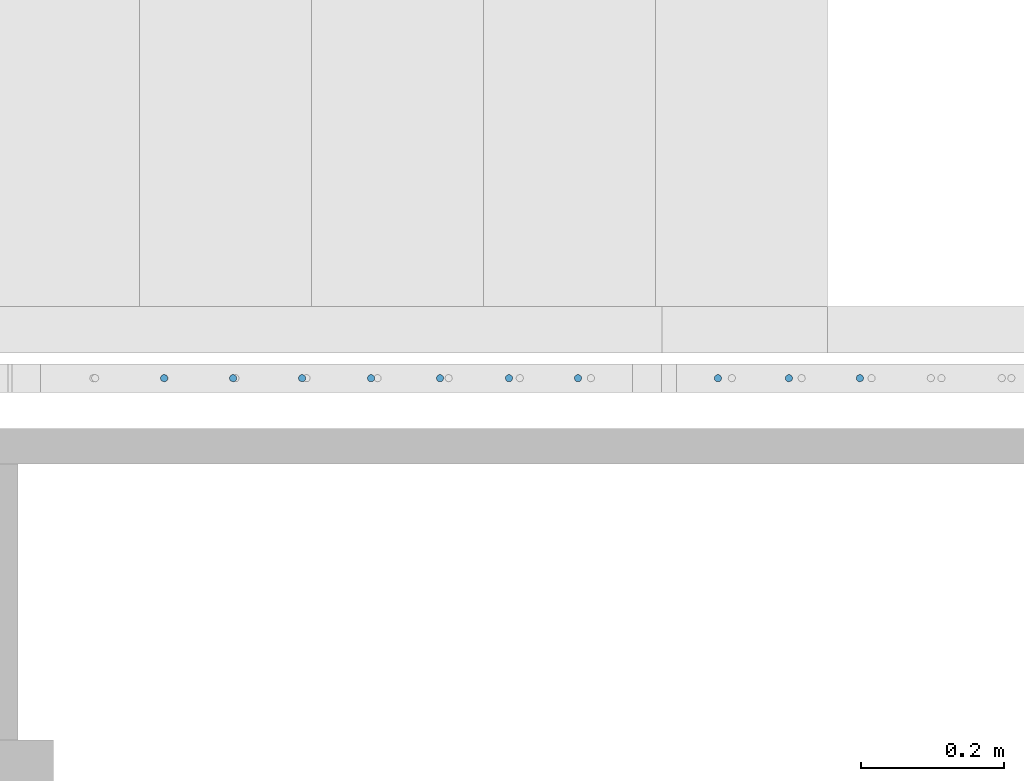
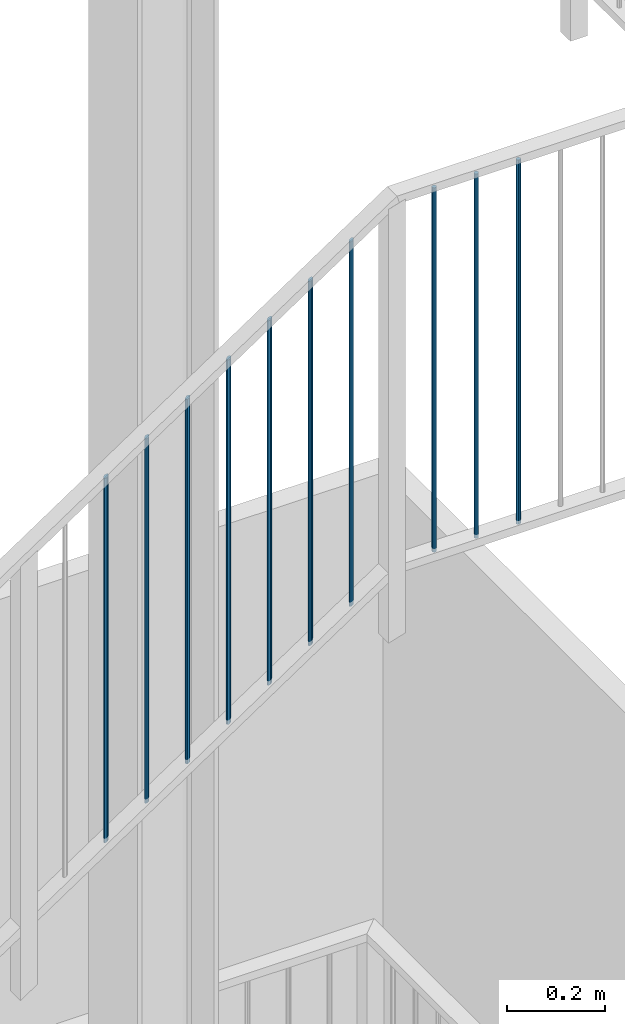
# One storey, part 18 of 135: 10 members, 1 element without a shape of its own.
"""IFC2X3 building model written with IfcOpenShell, lengths in millimetres."""

from ifc_helpers import new_model, entity, si_unit, converted_unit, derived_unit, money_unit, direction, frame, origin_with_axes, place, context, subcontext, project, spatial, faceted_brep, source, transform, mapped, material, type_object, type_shapes, element, aggregate, save


model = new_model("IFC2X3")

# Units and contexts
model_context = context("Model", 3, precision=0.01, world=origin_with_axes(), true_north=direction((0.0, 1.0)))
body_context = subcontext(model_context, "Body", "Model", "MODEL_VIEW")
ifc_project = project(units=[si_unit("LENGTHUNIT", "METRE", prefix="MILLI"), si_unit("AREAUNIT", "SQUARE_METRE"), si_unit("VOLUMEUNIT", "CUBIC_METRE"), converted_unit("PLANEANGLEUNIT", "DEGREE", entity("IfcPlaneAngleMeasure", 0.0174532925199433), si_unit("PLANEANGLEUNIT", "RADIAN"), dimensions=[0, 0, 0, 0, 0, 0, 0]), money_unit("EUR"), converted_unit("TIMEUNIT", "Year", entity("IfcTimeMeasure", 31557600.0), si_unit("TIMEUNIT", "SECOND"), dimensions=[0, 0, 1, 0, 0, 0, 0]), si_unit("MASSUNIT", "GRAM", prefix="KILO"), si_unit("THERMODYNAMICTEMPERATUREUNIT", "DEGREE_CELSIUS"), si_unit("LUMINOUSINTENSITYUNIT", "LUMEN"), si_unit("ENERGYUNIT", "JOULE", prefix="MEGA"), derived_unit("THERMALCONDUCTANCEUNIT", [(si_unit("POWERUNIT", "WATT"), 1), (si_unit("LENGTHUNIT", "METRE"), -1), (si_unit("THERMODYNAMICTEMPERATUREUNIT", "KELVIN"), -1)]), derived_unit("SPECIFICHEATCAPACITYUNIT", [(si_unit("ENERGYUNIT", "JOULE"), 1), (si_unit("MASSUNIT", "GRAM", prefix="KILO"), -1), (si_unit("THERMODYNAMICTEMPERATUREUNIT", "KELVIN"), -1)]), derived_unit("MASSDENSITYUNIT", [(si_unit("MASSUNIT", "GRAM", prefix="KILO"), 1), (si_unit("VOLUMEUNIT", "CUBIC_METRE"), -1)])], contexts=[model_context])

# Site, building, storey
site_placement = place(None, origin_with_axes())
site = spatial("IfcSite", under=ifc_project, at=site_placement, Name="Site", CompositionType="ELEMENT")
building_placement = place(site_placement, origin_with_axes())
building = spatial("IfcBuilding", under=site, at=building_placement, Name="Naam gebouw", CompositionType="ELEMENT")
storey_placement = place(building_placement, origin_with_axes())
storey = spatial("IfcBuildingStorey", under=building, at=storey_placement, Name="Begane grond N", CompositionType="ELEMENT", Elevation=0.0)

# Railing, members
railing_type = type_object("IfcRailingType", Name="Railing Type", PredefinedType="NOTDEFINED")
railing_placement = place(storey_placement, frame((56236.62159597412, 21185.9124251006, 4176.0), z_axis=(0.0, 0.0, 1.0), x_axis=(1.0, 0.0, 0.0)))
railing = element("IfcRailing", 1, at=railing_placement, inside=storey, type_object=railing_type, Name="_Reling-x", PredefinedType="NOTDEFINED")
ifc_material = material(Name="Metaal - Staal C")
member_type = type_object("IfcMemberType", Name="IfcMember", PredefinedType="MEMBER")
shared_shape_1 = source(origin_with_axes(), body_context, "Body", "Brep", [
    faceted_brep([(0.0, -5.0, 0.0), (0.8682408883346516, -4.92403876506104, 0.0), (0.868240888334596, -4.92403876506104, 907.5000000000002), (0.0, -5.0, 907.5000000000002), (-0.868240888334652, -4.92403876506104, 0.0), (-1.710100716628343, -4.698463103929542, 0.0), (-2.500000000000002, -4.330127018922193, 0.0), (-3.213938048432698, -3.830222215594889, 0.0), (-3.830222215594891, -3.213938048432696, 0.0), (-4.330127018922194, -2.5, 0.0), (-4.698463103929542, -1.710100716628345, 0.0), (-4.924038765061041, -0.86824088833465, 0.0), (-5.0, 0.0, 0.0), (-4.92403876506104, 0.8682408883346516, 0.0), (-4.698463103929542, 1.710100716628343, 0.0), (-4.330127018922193, 2.500000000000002, 0.0), (-3.83022221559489, 3.213938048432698, 0.0), (-3.213938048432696, 3.83022221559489, 0.0), (-2.5, 4.330127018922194, 0.0), (-1.710100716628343, 4.698463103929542, 0.0), (-0.8682408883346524, 4.92403876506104, 0.0), (0.0, 5.0, 0.0), (0.8682408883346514, 4.92403876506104, 0.0), (1.710100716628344, 4.698463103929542, 0.0), (2.5, 4.330127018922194, 0.0), (3.213938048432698, 3.83022221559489, 0.0), (3.83022221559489, 3.213938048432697, 0.0), (4.330127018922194, 2.499999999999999, 0.0), (4.698463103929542, 1.710100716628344, 0.0), (4.92403876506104, 0.8682408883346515, 0.0), (5.0, 0.0, 0.0), (4.92403876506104, -0.8682408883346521, 0.0), (4.698463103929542, -1.710100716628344, 0.0), (4.330127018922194, -2.5, 0.0), (3.83022221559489, -3.213938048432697, 0.0), (3.213938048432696, -3.83022221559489, 0.0), (2.5, -4.330127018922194, 0.0), (1.710100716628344, -4.698463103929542, 0.0), (1.710100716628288, -4.698463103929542, 907.5000000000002), (2.499999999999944, -4.330127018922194, 907.5000000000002), (3.213938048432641, -3.83022221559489, 907.5000000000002), (3.830222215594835, -3.213938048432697, 907.5000000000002), (4.330127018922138, -2.5, 907.5000000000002), (4.698463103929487, -1.710100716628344, 907.5000000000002), (4.924038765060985, -0.8682408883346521, 907.5000000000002), (4.999999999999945, 0.0, 907.5000000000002), (4.924038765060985, 0.8682408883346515, 907.5000000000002), (4.698463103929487, 1.710100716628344, 907.5000000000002), (4.330127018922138, 2.499999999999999, 907.5000000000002), (3.830222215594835, 3.213938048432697, 907.5000000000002), (3.213938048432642, 3.83022221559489, 907.5000000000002), (2.499999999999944, 4.330127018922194, 907.5000000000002), (1.710100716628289, 4.698463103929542, 907.5000000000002), (0.8682408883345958, 4.92403876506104, 907.5000000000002), (0.0, 5.0, 907.5000000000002), (-0.868240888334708, 4.92403876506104, 907.5000000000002), (-1.710100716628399, 4.698463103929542, 907.5000000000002), (-2.500000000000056, 4.330127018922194, 907.5000000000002), (-3.213938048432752, 3.83022221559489, 907.5000000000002), (-3.830222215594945, 3.213938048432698, 907.5000000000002), (-4.330127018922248, 2.500000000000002, 907.5000000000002), (-4.698463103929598, 1.710100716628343, 907.5000000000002), (-4.924038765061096, 0.8682408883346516, 907.5000000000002), (-5.000000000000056, 0.0, 907.5000000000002), (-4.924038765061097, -0.86824088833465, 907.5000000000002), (-4.698463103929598, -1.710100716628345, 907.5000000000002), (-4.330127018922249, -2.5, 907.5000000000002), (-3.830222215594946, -3.213938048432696, 907.5000000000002), (-3.213938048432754, -3.830222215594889, 907.5000000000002), (-2.500000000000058, -4.330127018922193, 907.5000000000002), (-1.710100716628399, -4.698463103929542, 907.5000000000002), (-0.8682408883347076, -4.92403876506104, 907.5000000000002)], [[[0, 1, 2, 3]], [[0, 4, 5, 6, 7, 8, 9, 10, 11, 12, 13, 14, 15, 16, 17, 18, 19, 20, 21, 22, 23, 24, 25, 26, 27, 28, 29, 30, 31, 32, 33, 34, 35, 36, 37, 1]], [[1, 37, 38, 2]], [[3, 2, 38, 39, 40, 41, 42, 43, 44, 45, 46, 47, 48, 49, 50, 51, 52, 53, 54, 55, 56, 57, 58, 59, 60, 61, 62, 63, 64, 65, 66, 67, 68, 69, 70, 71]], [[4, 0, 3, 71]], [[5, 4, 71, 70]], [[6, 5, 70, 69]], [[7, 6, 69, 68]], [[8, 7, 68, 67]], [[9, 8, 67, 66]], [[10, 9, 66, 65]], [[11, 10, 65, 64]], [[12, 11, 64, 63]], [[13, 12, 63, 62]], [[14, 13, 62, 61]], [[15, 14, 61, 60]], [[16, 15, 60, 59]], [[17, 16, 59, 58]], [[18, 17, 58, 57]], [[19, 18, 57, 56]], [[20, 19, 56, 55]], [[21, 20, 55, 54]], [[22, 21, 54, 53]], [[23, 22, 53, 52]], [[24, 23, 52, 51]], [[25, 24, 51, 50]], [[26, 25, 50, 49]], [[27, 26, 49, 48]], [[28, 27, 48, 47]], [[29, 28, 47, 46]], [[30, 29, 46, 45]], [[31, 30, 45, 44]], [[32, 31, 44, 43]], [[33, 32, 43, 42]], [[34, 33, 42, 41]], [[35, 34, 41, 40]], [[36, 35, 40, 39]], [[37, 36, 39, 38]]]),
])
member_1_placement = place(railing_placement, frame((2620.555741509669, -24.99999999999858, 1806.673611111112), z_axis=(0.0, 0.0, 1.0), x_axis=(1.0, 0.0, 0.0)))
member_1 = element("IfcMember", 2, at=member_1_placement, type_object=member_type, material=ifc_material, Name="_Spijlen-x", ObjectType="MEMBER", context=body_context, shape_type="MappedRepresentation", body=[
    mapped(shared_shape_1, transform((0.0, 0.0, 0.0), x_axis=(0.0, -1.0, 0.0), y_axis=(1.0, 0.0, 0.0), z_axis=(0.0, 0.0, 1.0))),
])
member_2_placement = place(railing_placement, frame((2719.619023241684, -24.99999999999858, 1806.673611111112), z_axis=(0.0, 0.0, 1.0), x_axis=(1.0, 0.0, 0.0)))
member_2 = element("IfcMember", 3, at=member_2_placement, type_object=member_type, material=ifc_material, Name="_Spijlen-x", ObjectType="MEMBER", context=body_context, shape_type="MappedRepresentation", body=[
    mapped(shared_shape_1, transform((0.0, 0.0, 0.0), x_axis=(0.0, -1.0, 0.0), y_axis=(1.0, 0.0, 0.0), z_axis=(0.0, 0.0, 1.0))),
])
member_3_placement = place(railing_placement, frame((2818.682304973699, -24.99999999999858, 1806.673611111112), z_axis=(0.0, 0.0, 1.0), x_axis=(1.0, 0.0, 0.0)))
member_3 = element("IfcMember", 4, at=member_3_placement, type_object=member_type, material=ifc_material, Name="_Spijlen-x", ObjectType="MEMBER", context=body_context, shape_type="MappedRepresentation", body=[
    mapped(shared_shape_1, transform((0.0, 0.0, 0.0), x_axis=(0.0, -1.0, 0.0), y_axis=(1.0, 0.0, 0.0), z_axis=(0.0, 0.0, 1.0))),
])
shared_shape_2 = source(origin_with_axes(), body_context, "Body", "Brep", [
    faceted_brep([(0.0, -5.000000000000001, -3.340321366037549), (0.8682408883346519, -4.924038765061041, -3.289574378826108), (0.8682408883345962, -4.924038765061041, 904.2104256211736), (0.0, -5.000000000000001, 904.1596786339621), (-0.8682408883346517, -4.924038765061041, -3.289574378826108), (-1.710100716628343, -4.698463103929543, -3.13887533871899), (-2.500000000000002, -4.330127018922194, -2.892803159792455), (-3.213938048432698, -3.83022221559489, -2.558834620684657), (-3.830222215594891, -3.213938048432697, -2.147117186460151), (-4.330127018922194, -2.500000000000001, -1.670160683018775), (-4.698463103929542, -1.710100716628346, -1.142457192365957), (-4.924038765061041, -0.8682408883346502, -0.5800407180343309), (-5.0, 0.0, 0.0), (-4.92403876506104, 0.8682408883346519, 0.5800407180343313), (-4.698463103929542, 1.710100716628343, 1.142457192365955), (-4.330127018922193, 2.500000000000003, 1.670160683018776), (-3.83022221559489, 3.213938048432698, 2.147117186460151), (-3.213938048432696, 3.830222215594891, 2.558834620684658), (-2.5, 4.330127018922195, 2.892803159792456), (-1.710100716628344, 4.698463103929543, 3.13887533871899), (-0.8682408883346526, 4.924038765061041, 3.289574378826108), (0.0, 5.000000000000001, 3.340321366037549), (0.8682408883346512, 4.924038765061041, 3.289574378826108), (1.710100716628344, 4.698463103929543, 3.13887533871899), (2.5, 4.330127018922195, 2.892803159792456), (3.213938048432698, 3.83022221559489, 2.558834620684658), (3.83022221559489, 3.213938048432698, 2.147117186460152), (4.330127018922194, 2.499999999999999, 1.670160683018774), (4.698463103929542, 1.710100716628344, 1.142457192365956), (4.92403876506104, 0.8682408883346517, 0.580040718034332), (5.0, 0.0, 0.0), (4.92403876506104, -0.8682408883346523, -0.5800407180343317), (4.698463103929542, -1.710100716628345, -1.142457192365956), (4.330127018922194, -2.500000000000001, -1.670160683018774), (3.83022221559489, -3.213938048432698, -2.147117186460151), (3.213938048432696, -3.830222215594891, -2.558834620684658), (2.5, -4.330127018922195, -2.892803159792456), (1.710100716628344, -4.698463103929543, -3.13887533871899), (1.710100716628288, -4.698463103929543, 904.3611246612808), (2.499999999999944, -4.330127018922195, 904.6071968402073), (3.213938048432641, -3.830222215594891, 904.9411653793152), (3.830222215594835, -3.213938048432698, 905.3528828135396), (4.330127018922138, -2.500000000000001, 905.8298393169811), (4.698463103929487, -1.710100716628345, 906.3575428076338), (4.924038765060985, -0.8682408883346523, 906.9199592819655), (4.999999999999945, 0.0, 907.4999999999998), (4.924038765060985, 0.8682408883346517, 908.0800407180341), (4.698463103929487, 1.710100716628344, 908.6424571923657), (4.330127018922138, 2.499999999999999, 909.1701606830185), (3.830222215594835, 3.213938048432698, 909.6471171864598), (3.213938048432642, 3.83022221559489, 910.0588346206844), (2.499999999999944, 4.330127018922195, 910.3928031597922), (1.710100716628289, 4.698463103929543, 910.6388753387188), (0.8682408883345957, 4.924038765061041, 910.7895743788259), (0.0, 5.000000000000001, 910.8403213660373), (-0.8682408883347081, 4.924038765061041, 910.7895743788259), (-1.710100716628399, 4.698463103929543, 910.6388753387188), (-2.500000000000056, 4.330127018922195, 910.3928031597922), (-3.213938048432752, 3.830222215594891, 910.0588346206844), (-3.830222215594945, 3.213938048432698, 909.6471171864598), (-4.330127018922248, 2.500000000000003, 909.1701606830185), (-4.698463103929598, 1.710100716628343, 908.6424571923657), (-4.924038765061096, 0.8682408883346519, 908.0800407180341), (-5.000000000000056, 0.0, 907.4999999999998), (-4.924038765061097, -0.8682408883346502, 906.9199592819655), (-4.698463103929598, -1.710100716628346, 906.3575428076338), (-4.330127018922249, -2.500000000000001, 905.8298393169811), (-3.830222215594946, -3.213938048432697, 905.3528828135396), (-3.213938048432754, -3.83022221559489, 904.9411653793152), (-2.500000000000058, -4.330127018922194, 904.6071968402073), (-1.710100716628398, -4.698463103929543, 904.3611246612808), (-0.8682408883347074, -4.924038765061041, 904.2104256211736)], [[[0, 1, 2, 3]], [[0, 4, 5, 6, 7, 8, 9, 10, 11, 12, 13, 14, 15, 16, 17, 18, 19, 20, 21, 22, 23, 24, 25, 26, 27, 28, 29, 30, 31, 32, 33, 34, 35, 36, 37, 1]], [[1, 37, 38, 2]], [[3, 2, 38, 39, 40, 41, 42, 43, 44, 45, 46, 47, 48, 49, 50, 51, 52, 53, 54, 55, 56, 57, 58, 59, 60, 61, 62, 63, 64, 65, 66, 67, 68, 69, 70, 71]], [[4, 0, 3, 71]], [[5, 4, 71, 70]], [[6, 5, 70, 69]], [[7, 6, 69, 68]], [[8, 7, 68, 67]], [[9, 8, 67, 66]], [[10, 9, 66, 65]], [[11, 10, 65, 64]], [[12, 11, 64, 63]], [[13, 12, 63, 62]], [[14, 13, 62, 61]], [[15, 14, 61, 60]], [[16, 15, 60, 59]], [[17, 16, 59, 58]], [[18, 17, 58, 57]], [[19, 18, 57, 56]], [[20, 19, 56, 55]], [[21, 20, 55, 54]], [[22, 21, 54, 53]], [[23, 22, 53, 52]], [[24, 23, 52, 51]], [[25, 24, 51, 50]], [[26, 25, 50, 49]], [[27, 26, 49, 48]], [[28, 27, 48, 47]], [[29, 28, 47, 46]], [[30, 29, 46, 45]], [[31, 30, 45, 44]], [[32, 31, 44, 43]], [[33, 32, 43, 42]], [[34, 33, 42, 41]], [[35, 34, 41, 40]], [[36, 35, 40, 39]], [[37, 36, 39, 38]]]),
])
type_shapes(member_type, [shared_shape_1, shared_shape_2])
member_4_placement = place(railing_placement, frame((1847.532285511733, -24.99999999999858, 1356.424897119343), z_axis=(0.0, 0.0, 1.0), x_axis=(1.0, 0.0, 0.0)))
member_4 = element("IfcMember", 5, at=member_4_placement, type_object=member_type, material=ifc_material, Name="_Spijlen-x", ObjectType="MEMBER", context=body_context, shape_type="MappedRepresentation", body=[
    mapped(shared_shape_2, transform((0.0, 0.0, 0.0), x_axis=(0.0, -1.0, 0.0), y_axis=(1.0, 0.0, 0.0), z_axis=(0.0, 0.0, 1.0))),
])
member_5_placement = place(railing_placement, frame((1943.812310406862, -24.99999999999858, 1420.746141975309), z_axis=(0.0, 0.0, 1.0), x_axis=(1.0, 0.0, 0.0)))
member_5 = element("IfcMember", 6, at=member_5_placement, type_object=member_type, material=ifc_material, Name="_Spijlen-x", ObjectType="MEMBER", context=body_context, shape_type="MappedRepresentation", body=[
    mapped(shared_shape_2, transform((0.0, 0.0, 0.0), x_axis=(0.0, -1.0, 0.0), y_axis=(1.0, 0.0, 0.0), z_axis=(0.0, 0.0, 1.0))),
])
member_6_placement = place(railing_placement, frame((2040.092335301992, -24.99999999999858, 1485.067386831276), z_axis=(0.0, 0.0, 1.0), x_axis=(1.0, 0.0, 0.0)))
member_6 = element("IfcMember", 7, at=member_6_placement, type_object=member_type, material=ifc_material, Name="_Spijlen-x", ObjectType="MEMBER", context=body_context, shape_type="MappedRepresentation", body=[
    mapped(shared_shape_2, transform((0.0, 0.0, 0.0), x_axis=(0.0, -1.0, 0.0), y_axis=(1.0, 0.0, 0.0), z_axis=(0.0, 0.0, 1.0))),
])
member_7_placement = place(railing_placement, frame((2136.372360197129, -24.99999999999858, 1549.388631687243), z_axis=(0.0, 0.0, 1.0), x_axis=(1.0, 0.0, 0.0)))
member_7 = element("IfcMember", 8, at=member_7_placement, type_object=member_type, material=ifc_material, Name="_Spijlen-x", ObjectType="MEMBER", context=body_context, shape_type="MappedRepresentation", body=[
    mapped(shared_shape_2, transform((0.0, 0.0, 0.0), x_axis=(0.0, -1.0, 0.0), y_axis=(1.0, 0.0, 0.0), z_axis=(0.0, 0.0, 1.0))),
])
member_8_placement = place(railing_placement, frame((2232.652385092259, -24.99999999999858, 1613.709876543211), z_axis=(0.0, 0.0, 1.0), x_axis=(1.0, 0.0, 0.0)))
member_8 = element("IfcMember", 9, at=member_8_placement, type_object=member_type, material=ifc_material, Name="_Spijlen-x", ObjectType="MEMBER", context=body_context, shape_type="MappedRepresentation", body=[
    mapped(shared_shape_2, transform((0.0, 0.0, 0.0), x_axis=(0.0, -1.0, 0.0), y_axis=(1.0, 0.0, 0.0), z_axis=(0.0, 0.0, 1.0))),
])
member_9_placement = place(railing_placement, frame((2425.212434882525, -24.99999999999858, 1742.352366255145), z_axis=(0.0, 0.0, 1.0), x_axis=(1.0, 0.0, 0.0)))
member_9 = element("IfcMember", 10, at=member_9_placement, type_object=member_type, material=ifc_material, Name="_Spijlen-x", ObjectType="MEMBER", context=body_context, shape_type="MappedRepresentation", body=[
    mapped(shared_shape_2, transform((0.0, 0.0, 0.0), x_axis=(0.0, -1.0, 0.0), y_axis=(1.0, 0.0, 0.0), z_axis=(0.0, 0.0, 1.0))),
])
member_10_placement = place(railing_placement, frame((2328.932409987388, -24.99999999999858, 1678.031121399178), z_axis=(0.0, 0.0, 1.0), x_axis=(1.0, 0.0, 0.0)))
member_10 = element("IfcMember", 11, at=member_10_placement, type_object=member_type, material=ifc_material, Name="_Spijlen-x", ObjectType="MEMBER", context=body_context, shape_type="MappedRepresentation", body=[
    mapped(shared_shape_2, transform((0.0, 0.0, 0.0), x_axis=(0.0, -1.0, 0.0), y_axis=(1.0, 0.0, 0.0), z_axis=(0.0, 0.0, 1.0))),
])
aggregate(railing, [member_4, member_5, member_6, member_7, member_8, member_9, member_10, member_1, member_2, member_3])

save(model, "model.ifc")
